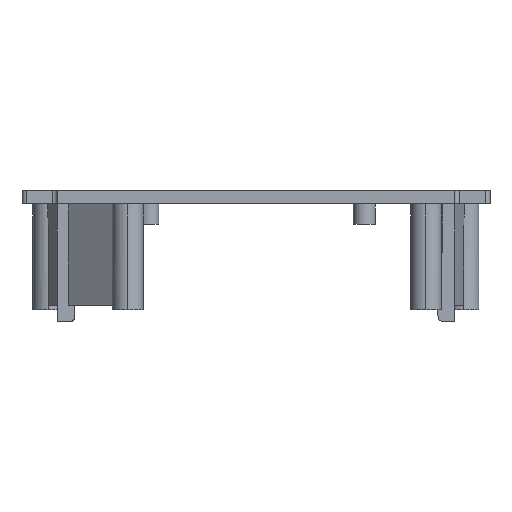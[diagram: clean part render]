
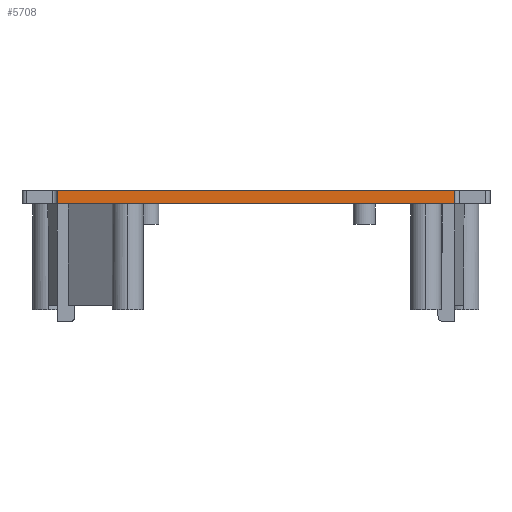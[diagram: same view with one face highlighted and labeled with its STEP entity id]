
A CAD part, left-side view. The second image highlights one B-rep face of the part: STEP entity #5708.
In plain terms, the highlighted planar face has unit normal (-1, 0, 0).
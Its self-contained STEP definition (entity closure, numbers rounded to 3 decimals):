
#546=DIRECTION('',(0.,-1.,0.));
#547=VECTOR('',#546,89.999);
#548=CARTESIAN_POINT('',(-110.697,1461.958,-56.124));
#549=LINE('',#548,#547);
#963=DIRECTION('',(0.,0.,-1.));
#964=VECTOR('',#963,3.);
#965=CARTESIAN_POINT('',(-110.697,1461.958,-56.124));
#966=LINE('',#965,#964);
#967=DIRECTION('',(0.,-1.,0.));
#968=VECTOR('',#967,89.999);
#969=CARTESIAN_POINT('',(-110.697,1461.958,-59.124));
#970=LINE('',#969,#968);
#2437=DIRECTION('',(0.,0.,-1.));
#2438=VECTOR('',#2437,3.);
#2439=CARTESIAN_POINT('',(-110.697,1371.959,
-56.124));
#2440=LINE('',#2439,#2438);
#3651=CARTESIAN_POINT('',(-110.697,1461.958,
-59.124));
#3652=CARTESIAN_POINT('',(-110.697,1371.959,
-59.124));
#3653=VERTEX_POINT('',#3651);
#3654=VERTEX_POINT('',#3652);
#3899=CARTESIAN_POINT('',(-110.697,1461.958,
-56.124));
#3900=VERTEX_POINT('',#3899);
#3901=CARTESIAN_POINT('',(-110.697,1371.959,
-56.124));
#3902=VERTEX_POINT('',#3901);
#5695=CARTESIAN_POINT('',(-110.697,1416.959,
-84.724));
#5696=DIRECTION('',(-1.,0.,0.));
#5697=DIRECTION('',(0.,0.,-1.));
#5698=AXIS2_PLACEMENT_3D('',#5695,#5696,#5697);
#5699=PLANE('',#5698);
#5701=ORIENTED_EDGE('',*,*,#5700,.F.);
#5702=ORIENTED_EDGE('',*,*,#5093,.T.);
#5704=ORIENTED_EDGE('',*,*,#5703,.T.);
#5705=ORIENTED_EDGE('',*,*,#4990,.F.);
#5706=EDGE_LOOP('',(#5701,#5702,#5704,#5705));
#5707=FACE_OUTER_BOUND('',#5706,.F.);
#5708=ADVANCED_FACE('',(#5707),#5699,.T.);
#4990=EDGE_CURVE('',#3653,#3654,#970,.T.);
#5093=EDGE_CURVE('',#3900,#3902,#549,.T.);
#5700=EDGE_CURVE('',#3900,#3653,#966,.T.);
#5703=EDGE_CURVE('',#3902,#3654,#2440,.T.);
